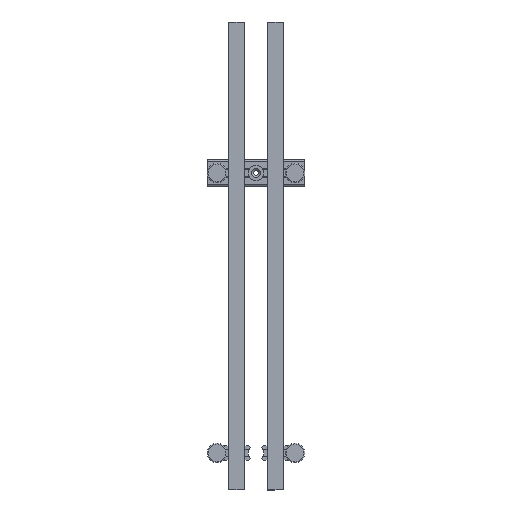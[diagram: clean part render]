
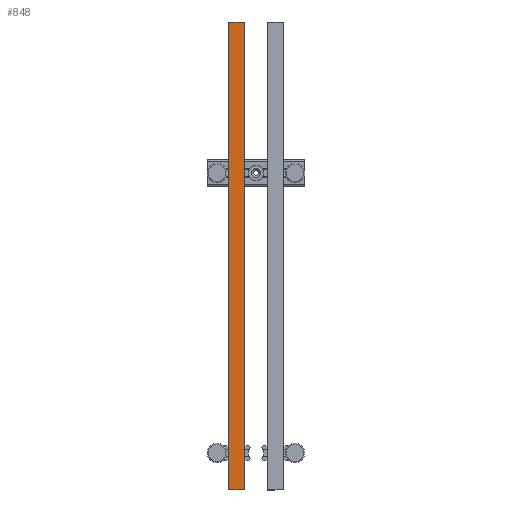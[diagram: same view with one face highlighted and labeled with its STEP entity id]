
A CAD part, top view. The second image highlights one B-rep face of the part: STEP entity #848.
In plain terms, the highlighted planar face has unit normal (0, 0, 1).
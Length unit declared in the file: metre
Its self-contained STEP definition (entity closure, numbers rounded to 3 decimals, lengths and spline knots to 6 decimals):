
#848=ADVANCED_FACE('3826:8816',(#1447),#1448,.F.);
#1447=FACE_OUTER_BOUND('',#2051,.T.);
#1448=PLANE('',#2052);
#2051=EDGE_LOOP('',(#2615,#2616,#2617,#2618));
#2052=AXIS2_PLACEMENT_3D('',#2619,#2620,#2621);
#2615=ORIENTED_EDGE('',*,*,#4028,.F.);
#2616=ORIENTED_EDGE('',*,*,#4029,.F.);
#2617=ORIENTED_EDGE('',*,*,#4030,.T.);
#2618=ORIENTED_EDGE('',*,*,#4031,.T.);
#2619=CARTESIAN_POINT('',(-0.032637,0.407291,-0.005362));
#2620=DIRECTION('',(0.0,0.0,-1.0));
#2621=DIRECTION('',(-1.0,0.0,0.0));
#4028=EDGE_CURVE('241:2598',#4517,#4518,#4519,.T.);
#4029=EDGE_CURVE('241:2622',#4520,#4517,#4521,.F.);
#4030=EDGE_CURVE('241:2604',#4520,#4522,#4523,.T.);
#4031=EDGE_CURVE('241:2601',#4522,#4518,#4524,.T.);
#4517=VERTEX_POINT('',#5228);
#4518=VERTEX_POINT('',#5229);
#4519=LINE('',#5230,#5231);
#4520=VERTEX_POINT('',#5232);
#4521=LINE('',#5233,#5234);
#4522=VERTEX_POINT('',#5235);
#4523=LINE('',#5236,#5237);
#4524=LINE('',#5238,#5239);
#5228=CARTESIAN_POINT('',(-0.032637,0.407291,-0.005362));
#5229=CARTESIAN_POINT('',(-0.032637,-0.192709,-0.005362));
#5230=CARTESIAN_POINT('',(-0.032637,0.407291,-0.005362));
#5231=VECTOR('',#6362,1.0);
#5232=CARTESIAN_POINT('',(-0.052637,0.407291,-0.005362));
#5233=CARTESIAN_POINT('',(-0.032637,0.407291,-0.005362));
#5234=VECTOR('',#6363,1.0);
#5235=CARTESIAN_POINT('',(-0.052637,-0.192709,-0.005362));
#5236=CARTESIAN_POINT('',(-0.052637,0.407291,-0.005362));
#5237=VECTOR('',#6364,1.0);
#5238=CARTESIAN_POINT('',(-0.032637,-0.192709,-0.005362));
#5239=VECTOR('',#6365,1.0);
#6362=DIRECTION('',(0.,-1.0,-0.0));
#6363=DIRECTION('',(-1.0,0.,0.0));
#6364=DIRECTION('',(0.,-1.0,-0.0));
#6365=DIRECTION('',(1.0,0.,0.0));
